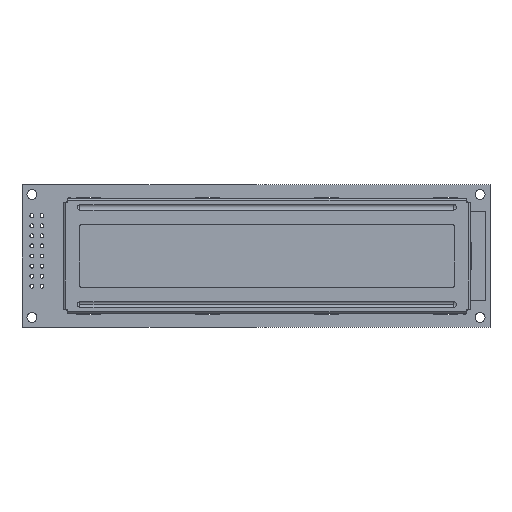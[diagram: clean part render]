
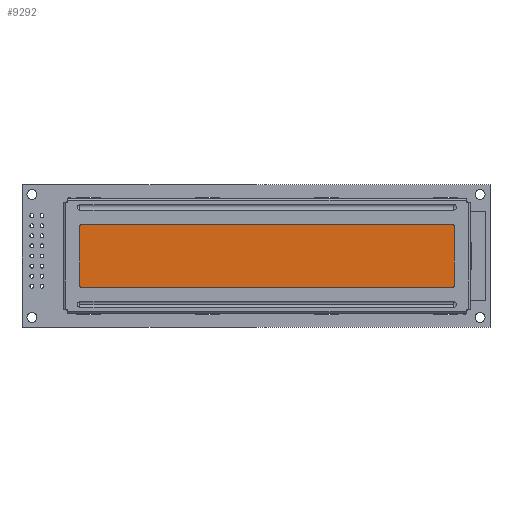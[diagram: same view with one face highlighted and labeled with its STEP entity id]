
A CAD part, top view. The second image highlights one B-rep face of the part: STEP entity #9292.
In plain terms, the highlighted planar face has unit normal (0, 0, 1).
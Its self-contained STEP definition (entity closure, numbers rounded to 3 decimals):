
#73 = DIRECTION ( 'NONE',  ( 0., 0., -1. ) ) ;
#434 = DIRECTION ( 'NONE',  ( 0., -1., 0. ) ) ;
#502 = VECTOR ( 'NONE', #6698, 1000. ) ;
#551 = CARTESIAN_POINT ( 'NONE',  ( 49.4, 8., 8.5 ) ) ;
#791 = VERTEX_POINT ( 'NONE', #12340 ) ;
#867 = AXIS2_PLACEMENT_3D ( 'NONE', #10382, #4907, #12527 ) ;
#1000 = LINE ( 'NONE', #5498, #9587 ) ;
#1020 = CIRCLE ( 'NONE', #7605, 0.6 ) ;
#1106 = VECTOR ( 'NONE', #434, 1000. ) ;
#1494 = DIRECTION ( 'NONE',  ( 0., 0., 1. ) ) ;
#1971 = EDGE_CURVE ( 'NONE', #9529, #8926, #1000, .T. ) ;
#2027 = DIRECTION ( 'NONE',  ( 0., 1., 0. ) ) ;
#2209 = CARTESIAN_POINT ( 'NONE',  ( -44.5, -7.4, 8.5 ) ) ;
#2283 = LINE ( 'NONE', #8987, #502 ) ;
#2331 = DIRECTION ( 'NONE',  ( 1., 0., 0. ) ) ;
#2402 = VECTOR ( 'NONE', #2027, 1000. ) ;
#2538 = ORIENTED_EDGE ( 'NONE', *, *, #1971, .T. ) ;
#2842 = AXIS2_PLACEMENT_3D ( 'NONE', #9303, #1494, #8208 ) ;
#2856 = VERTEX_POINT ( 'NONE', #3511 ) ;
#3124 = LINE ( 'NONE', #7631, #2402 ) ;
#3207 = ORIENTED_EDGE ( 'NONE', *, *, #9642, .T. ) ;
#3511 = CARTESIAN_POINT ( 'NONE',  ( 50., -7.4, 8.5 ) ) ;
#3521 = EDGE_CURVE ( 'NONE', #5960, #7047, #9844, .T. ) ;
#3551 = CIRCLE ( 'NONE', #2842, 0.6 ) ;
#3894 = ORIENTED_EDGE ( 'NONE', *, *, #13302, .T. ) ;
#3947 = CARTESIAN_POINT ( 'NONE',  ( 49.4, -7.4, 8.5 ) ) ;
#4395 = CIRCLE ( 'NONE', #867, 0.6 ) ;
#4492 = DIRECTION ( 'NONE',  ( 0., 0., 1. ) ) ;
#4519 = VERTEX_POINT ( 'NONE', #11305 ) ;
#4543 = CARTESIAN_POINT ( 'NONE',  ( -44.5, 7.4, 8.5 ) ) ;
#4713 = ORIENTED_EDGE ( 'NONE', *, *, #3521, .T. ) ;
#4860 = EDGE_CURVE ( 'NONE', #791, #6044, #11353, .T. ) ;
#4907 = DIRECTION ( 'NONE',  ( 0., 0., 1. ) ) ;
#4981 = AXIS2_PLACEMENT_3D ( 'NONE', #13574, #4492, #12472 ) ;
#5169 = EDGE_CURVE ( 'NONE', #7047, #9529, #3551, .T. ) ;
#5246 = EDGE_LOOP ( 'NONE', ( #10418, #3207, #3894, #4713, #10423, #2538, #12775, #12971 ) ) ;
#5498 = CARTESIAN_POINT ( 'NONE',  ( -43.9, -8., 8.5 ) ) ;
#5693 = PLANE ( 'NONE',  #13206 ) ;
#5960 = VERTEX_POINT ( 'NONE', #4543 ) ;
#6044 = VERTEX_POINT ( 'NONE', #551 ) ;
#6244 = EDGE_CURVE ( 'NONE', #2856, #791, #3124, .T. ) ;
#6698 = DIRECTION ( 'NONE',  ( -1., 0., 0. ) ) ;
#6796 = CARTESIAN_POINT ( 'NONE',  ( -44.5, 7.4, 8.5 ) ) ;
#7047 = VERTEX_POINT ( 'NONE', #2209 ) ;
#7605 = AXIS2_PLACEMENT_3D ( 'NONE', #3947, #8593, #11847 ) ;
#7631 = CARTESIAN_POINT ( 'NONE',  ( 50., -7.4, 8.5 ) ) ;
#8208 = DIRECTION ( 'NONE',  ( 0., -1., 0. ) ) ;
#8593 = DIRECTION ( 'NONE',  ( 0., 0., 1. ) ) ;
#8926 = VERTEX_POINT ( 'NONE', #9718 ) ;
#8987 = CARTESIAN_POINT ( 'NONE',  ( 49.4, 8., 8.5 ) ) ;
#9081 = DIRECTION ( 'NONE',  ( 0., 1., 0. ) ) ;
#9292 = ADVANCED_FACE ( 'NONE', ( #14592 ), #5693, .F. ) ;
#9303 = CARTESIAN_POINT ( 'NONE',  ( -43.9, -7.4, 8.5 ) ) ;
#9529 = VERTEX_POINT ( 'NONE', #10918 ) ;
#9587 = VECTOR ( 'NONE', #2331, 1000. ) ;
#9642 = EDGE_CURVE ( 'NONE', #6044, #4519, #2283, .T. ) ;
#9718 = CARTESIAN_POINT ( 'NONE',  ( 49.4, -8., 8.5 ) ) ;
#9844 = LINE ( 'NONE', #6796, #1106 ) ;
#10205 = CARTESIAN_POINT ( 'NONE',  ( 3.25, 0., 8.5 ) ) ;
#10382 = CARTESIAN_POINT ( 'NONE',  ( -43.9, 7.4, 8.5 ) ) ;
#10418 = ORIENTED_EDGE ( 'NONE', *, *, #4860, .T. ) ;
#10423 = ORIENTED_EDGE ( 'NONE', *, *, #5169, .T. ) ;
#10918 = CARTESIAN_POINT ( 'NONE',  ( -43.9, -8., 8.5 ) ) ;
#11305 = CARTESIAN_POINT ( 'NONE',  ( -43.9, 8., 8.5 ) ) ;
#11353 = CIRCLE ( 'NONE', #4981, 0.6 ) ;
#11616 = EDGE_CURVE ( 'NONE', #8926, #2856, #1020, .T. ) ;
#11847 = DIRECTION ( 'NONE',  ( 0., -1., 0. ) ) ;
#12340 = CARTESIAN_POINT ( 'NONE',  ( 50., 7.4, 8.5 ) ) ;
#12472 = DIRECTION ( 'NONE',  ( 0., -1., 0. ) ) ;
#12527 = DIRECTION ( 'NONE',  ( 0., -1., 0. ) ) ;
#12775 = ORIENTED_EDGE ( 'NONE', *, *, #11616, .T. ) ;
#12971 = ORIENTED_EDGE ( 'NONE', *, *, #6244, .T. ) ;
#13206 = AXIS2_PLACEMENT_3D ( 'NONE', #10205, #73, #9081 ) ;
#13302 = EDGE_CURVE ( 'NONE', #4519, #5960, #4395, .T. ) ;
#13574 = CARTESIAN_POINT ( 'NONE',  ( 49.4, 7.4, 8.5 ) ) ;
#14592 = FACE_OUTER_BOUND ( 'NONE', #5246, .T. ) ;
